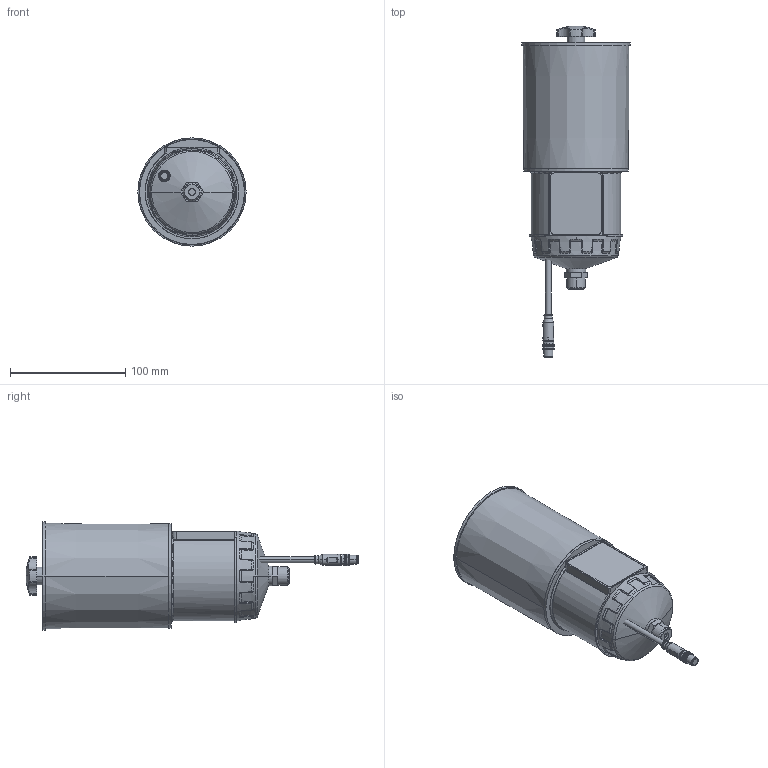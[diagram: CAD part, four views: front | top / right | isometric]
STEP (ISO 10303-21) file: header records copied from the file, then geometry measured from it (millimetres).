
FILE_DESCRIPTION((''),'2;1');
FILE_NAME('PULSARLUBE_PLC-OL480_ASM_SALES_ASM','2023-07-14T17:24:30',('KLT'),(''),'CREO PARAMETRIC BY PTC INC, 2019352','CREO PARAMETRIC BY PTC INC, 2019352','');
FILE_SCHEMA(('CONFIG_CONTROL_DESIGN'));
Length unit declared in the file: millimetre
Products named in the file (12): MAIN_BODY_CABLE_2_1_1; BUSH-R1_1_1_1; PUMP-BOTTOM-ASSY_ASM_1_ASM_1_1_ASM; OL-PUMP-ASSY_ASM_7_ASM_1_1_ASM; OIL_CARTRIDGE-500_9_1_1; OIL_CARTRIDGE_COVER_2_1_1; NKPM6_B_2_1_1; OIL_CARTRIDGE-ASM_ASM_10_ASM__1_ASM; PULSARLUBE_PLC-OL480_ASM_ASM__1_ASM; MAIN_BODY_1_4; PULSARLUBE_PLC-OL480_ASM_SALE_2_ASM; PULSARLUBE_PLC-OL480_ASM_SALES_ASM
Assembly tree (11 placements, depth 6):
  PULSARLUBE_PLC-OL480_ASM_SALES_ASM
    PULSARLUBE_PLC-OL480_ASM_SALE_2_ASM
      PULSARLUBE_PLC-OL480_ASM_ASM__1_ASM
        MAIN_BODY_CABLE_2_1_1
        OL-PUMP-ASSY_ASM_7_ASM_1_1_ASM
          PUMP-BOTTOM-ASSY_ASM_1_ASM_1_1_ASM
            BUSH-R1_1_1_1
        OIL_CARTRIDGE-ASM_ASM_10_ASM__1_ASM
          OIL_CARTRIDGE-500_9_1_1
          OIL_CARTRIDGE_COVER_2_1_1
          NKPM6_B_2_1_1
      MAIN_BODY_1_4
Bounding box: 94 x 288.3 x 94 mm (x, y, z)
Volume: 1156163.2 mm3; surface area: 100540.8 mm2
Topology: 6 solids, 8 shells, 870 faces, 2291 edges, 1448 vertices
Faces by surface type: cylinder 262, torus 228, plane 197, bspline 138, cone 45
Entity records: 39748 total; most frequent: CARTESIAN_POINT 19480, ORIENTED_EDGE 4570, DIRECTION 3805, EDGE_CURVE 2289, AXIS2_PLACEMENT_3D 1548, VERTEX_POINT 1448, EDGE_LOOP 891, FACE_OUTER_BOUND 870
